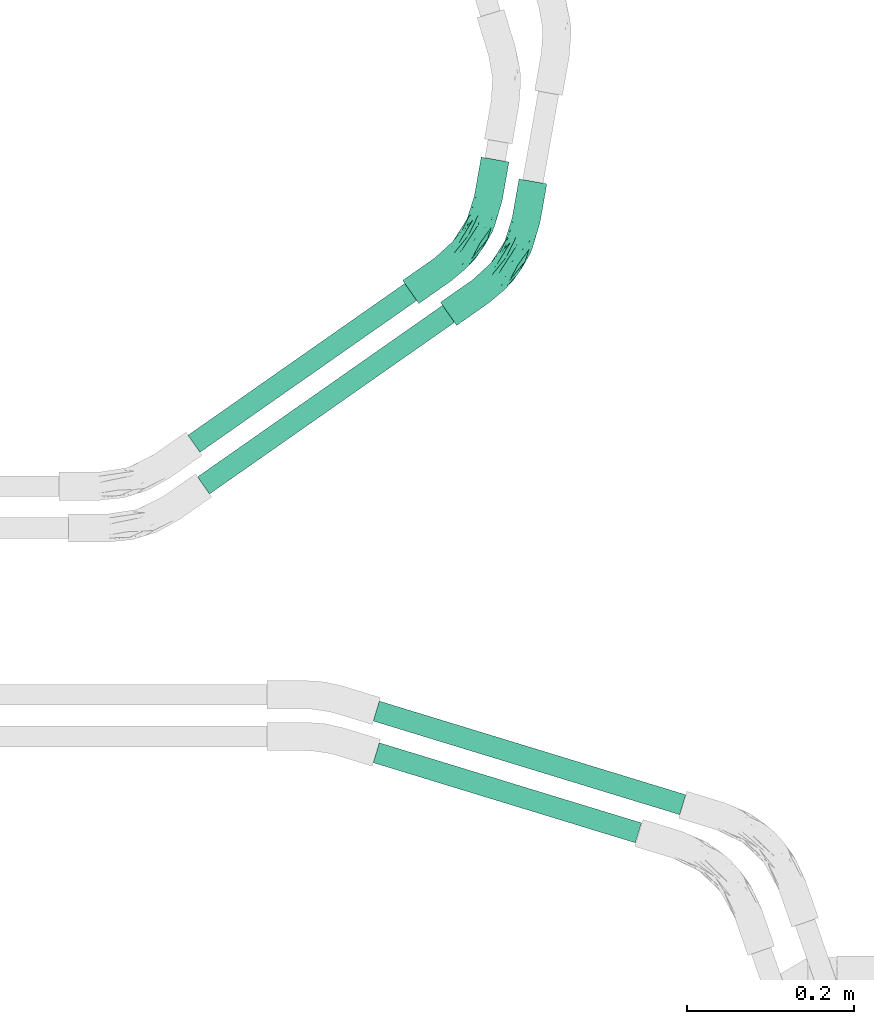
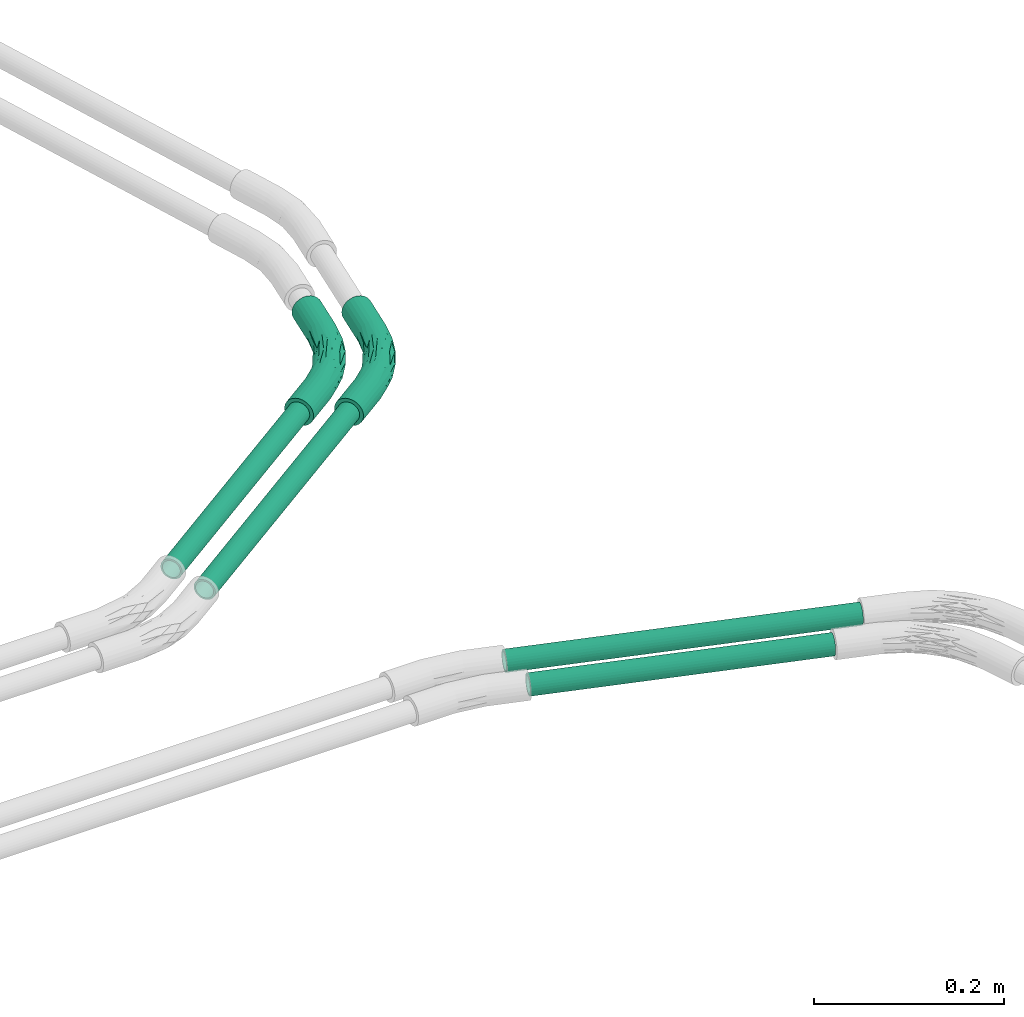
# One storey, part 14 of 22: 4 flow segments, 2 flow fittings.
"""IFC2X3 building model written with IfcOpenShell, lengths in millimetres."""

from ifc_helpers import new_model, entity, si_unit, converted_unit, derived_unit, direction, frame, origin_with_axes, origin_2d_with_axis, place, context, subcontext, project, spatial, hollow_circle, extrude, open_shell, surface_model, source, transform, mapped, type_object, element, save


model = new_model("IFC2X3")

# Units and contexts
model_context = context("Model", 3, precision=0.01, world=frame((0.0, 4.29681676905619e-09, 0.0)), true_north=direction((4.01073788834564e-13, 1.0)))
plan_context = context("Plan", 3, precision=0.01, world=frame((0.0, 4.29681676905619e-09, 0.0)), true_north=direction((4.01073788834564e-13, 1.0)))
body_context = subcontext(model_context, "Body", "Model", "MODEL_VIEW")
ifc_project = project(units=[converted_unit("PLANEANGLEUNIT", "DEGREE", entity("IfcPositiveLengthMeasure", 0.0174532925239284), si_unit("PLANEANGLEUNIT", "RADIAN"), dimensions=[0, 0, 0, 0, 0, 0, 0]), si_unit("AREAUNIT", "SQUARE_METRE"), si_unit("LENGTHUNIT", "METRE", prefix="MILLI"), si_unit("MASSUNIT", "GRAM", prefix="KILO"), si_unit("POWERUNIT", "WATT"), si_unit("PRESSUREUNIT", "PASCAL", prefix="KILO"), si_unit("FORCEUNIT", "NEWTON", prefix="KILO"), si_unit("ELECTRICVOLTAGEUNIT", "VOLT"), si_unit("ELECTRICCURRENTUNIT", "AMPERE"), si_unit("THERMODYNAMICTEMPERATUREUNIT", "DEGREE_CELSIUS"), si_unit("TIMEUNIT", "SECOND"), si_unit("VOLUMEUNIT", "CUBIC_METRE"), derived_unit("LINEARVELOCITYUNIT", [(si_unit("LENGTHUNIT", "METRE"), 1), (si_unit("TIMEUNIT", "SECOND"), -1)]), derived_unit("VOLUMETRICFLOWRATEUNIT", [(si_unit("VOLUMEUNIT", "CUBIC_METRE"), 1), (si_unit("TIMEUNIT", "SECOND"), -1)]), derived_unit("THERMALTRANSMITTANCEUNIT", [(si_unit("POWERUNIT", "WATT"), 1), (si_unit("THERMODYNAMICTEMPERATUREUNIT", "KELVIN"), -1), (si_unit("AREAUNIT", "SQUARE_METRE"), -1)]), derived_unit("SOUNDPRESSUREUNIT", [(si_unit("PRESSUREUNIT", "PASCAL"), 1)])], contexts=[model_context, plan_context])

# Site, building, storey
site_placement = place(None, frame((0.0, -4.29681676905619e-09, 0.0), z_axis=(0.0, 0.0, 1.0), x_axis=(1.0, 0.0, 0.0)))
site = spatial("IfcSite", under=ifc_project, at=site_placement, Name="ENGM", CompositionType="ELEMENT")
building_placement = place(site_placement, frame((0.0, 4.29681676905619e-09, 0.0), z_axis=(0.0, 0.0, 1.0), x_axis=(1.0, 0.0, 0.0)))
building = spatial("IfcBuilding", under=site, at=building_placement, Name="TI", CompositionType="ELEMENT")
storey_placement = place(building_placement, frame((0.0, 0.0, 210900.0), z_axis=(0.0, 0.0, 1.0), x_axis=(1.0, 0.0, 0.0)))
storey = spatial("IfcBuildingStorey", under=building, at=storey_placement, Name="Nivå F", CompositionType="ELEMENT", Elevation=210900.0)

# Flow fittings
cable_carrier_fitting_type = type_object("IfcCableCarrierFittingType", Name="Trekkerør, glatt bend", PredefinedType="BEND")
shared_shape_1 = source(origin_with_axes(), body_context, "Body", "SurfaceModel", [
    surface_model("IfcShellBasedSurfaceModel", [(-101.90646, 8.46055, -14.6541), (-101.90646, 4.3795, -16.34452), (-101.90646, 0.0, -16.92109), (-101.90646, -4.3795, -16.34452), (-101.90646, -8.46055, -14.6541), (-101.90646, -14.6541, -8.46055), (-101.90646, 16.92109, 0.0), (-101.90646, -11.96502, -11.96502), (-101.90646, -11.96502, 11.96502), (-101.90646, 14.6541, -8.46055), (-101.90646, 11.96502, -11.96502), (-101.90646, 16.34452, -4.3795), (-101.90646, -16.34452, -4.3795), (-101.90646, -16.92109, 0.0), (-101.90646, -16.34452, 4.3795), (-101.90646, -14.6541, 8.46055), (-101.90646, 0.0, 16.92109), (-101.90646, -8.46055, 14.6541), (-101.90646, -4.3795, 16.34452), (-101.90646, 14.6541, 8.46055), (-101.90646, 8.46055, 14.6541), (-101.90646, 11.96502, 11.96502), (-101.90646, 16.34452, 4.3795), (-101.90646, 4.3795, 16.34452), (-54.58849, 16.34452, 4.3795), (-54.58849, 16.92109, 0.0), (-54.58849, 14.6541, 8.46055), (-54.58849, 8.46055, 14.6541), (-54.58849, 11.96502, 11.96502), (-54.58849, 4.3795, 16.34452), (-54.58849, 0.0, 16.92109), (-54.58849, -8.46055, 14.6541), (-54.58849, -4.3795, 16.34452), (-54.58849, -11.96502, 11.96502), (-54.58849, -16.34452, 4.3795), (-54.58849, -14.6541, 8.46055), (-54.58849, -16.92109, 0.0), (-54.58849, -16.34452, -4.3795), (-54.58849, -14.6541, -8.46055), (-54.58849, -8.46055, -14.6541), (-54.58849, -11.96502, -11.96502), (-54.58849, -4.3795, -16.34452), (-54.58849, 0.0, -16.92109), (-54.58849, 8.46055, -14.6541), (-54.58849, 4.3795, -16.34452), (-54.58849, 11.96502, -11.96502), (-54.58849, 16.34452, -4.3795), (-54.58849, 14.6541, -8.46055), (-16.09967, 11.85394, 0.0), (-13.36235, 10.76027, 3.27049), (10.9245, 1.31078, 3.47544), (22.26214, -21.90343, 16.76352), (38.59989, -38.59989, 16.92109), (41.69667, -35.50312, 16.34452), (-19.66365, 2.12805, 15.57779), (-29.58477, 8.16493, 13.36262), (-20.60685, 9.47816, 10.19127), (-29.40446, -19.36118, 3.4046), (-10.25807, -24.76518, 5.65746), (-34.07223, -17.39409, 6.62821), (-31.22977, 0.25365, 16.76352), (-3.22837, -7.79397, 16.74683), (17.47707, -29.1678, 15.66764), (32.61738, -44.5824, 14.6541), (35.50312, -41.69667, 16.34452), (5.09993, -25.84703, 13.50914), (-25.92736, -13.63005, 13.4985), (-16.62388, -19.5721, 10.43045), (-21.17216, -6.44783, 16.79403), (19.76619, -3.00218, 0.0), (-6.56017, -15.83764, 15.71089), (-32.9829, -8.26659, 15.66764), (47.06044, -30.13935, 11.96502), (48.96191, -28.23788, 8.46055), (19.50033, -6.79523, 10.18462), (-0.14544, -0.35113, 13.28643), (-24.85868, -20.8351, 0.0), (26.69306, -15.14611, 13.36262), (44.5824, -32.61738, 14.6541), (8.93562, -35.31889, 4.60583), (8.9424, -34.00903, 7.47137), (-6.07752, 7.50254, 6.29064), (25.73601, -8.11548, 6.36012), (30.13935, -47.06044, 11.96502), (10.0687, -32.56851, 10.38353), (28.23788, -48.96191, 8.46055), (-30.89964, 14.04008, 5.64535), (16.01237, -12.75836, 15.5789), (12.05401, -20.50658, 16.79305), (50.15722, -27.04257, 4.3795), (32.88314, -11.79305, 2.69799), (50.56491, -26.63487, 0.0), (2.8451, -32.31038, 0.0), (26.63487, -50.56491, 0.0), (27.04257, -50.15722, 4.3795), (-32.9829, -8.26659, -15.66764), (41.69667, -35.50312, -16.34452), (38.59989, -38.59989, -16.92109), (16.55602, -18.09298, -16.75967), (8.69552, -27.97131, -13.4985), (32.61738, -44.5824, -14.6541), (30.13935, -47.06044, -11.96502), (-21.88281, -14.67041, -13.50914), (-6.56017, -15.83764, -15.71089), (-31.29267, -18.65579, -4.60583), (-30.37125, -17.72478, -7.47137), (-10.25807, -24.76517, -5.65746), (-19.1381, 5.92521, -13.33619), (17.63726, -9.2923, -13.33594), (-1.59965, -3.86188, -15.54749), (-30.14906, -15.90977, -10.38353), (-2.08471, -25.59442, -10.43045), (10.41167, -19.53028, -16.79403), (-24.73941, -5.56629, -16.79215), (-28.92763, 11.20296, -10.21852), (-18.36618, 11.17146, -6.33871), (-19.67101, -2.27248, -16.75686), (-22.81878, 13.17372, -3.2081), (17.47707, -29.1678, -15.66764), (-30.36783, 4.42984, -15.59506), (24.60567, -18.34093, -15.59506), (35.50312, -41.69667, -16.34452), (7.10167, -34.48251, -3.4046), (27.04257, -50.15722, -4.3795), (47.06044, -30.13935, -11.96502), (44.5824, -32.61738, -14.6541), (28.23788, -48.96191, -8.46055), (11.79322, -36.39219, -6.62821), (1.03493, 2.49855, -10.11808), (28.37661, -12.53324, -10.21852), (48.96191, -28.23788, -8.46055), (20.88626, -5.08744, -6.33871), (25.45054, -6.82009, -3.2081), (2.19574, 5.30098, -3.30061), (50.15722, -27.04257, -4.3795), (68.96197, -75.15552, -16.34452), (72.05875, -72.05875, -16.92109), (60.50143, -83.61607, -4.3795), (66.07624, -78.04126, -14.6541), (61.69674, -82.42076, -8.46055), (63.5982, -80.51929, -11.96502), (75.15552, -68.96197, -16.34452), (78.04126, -66.07624, -14.6541), (80.51929, -63.5982, -11.96502), (83.61607, -60.50143, -4.3795), (82.42076, -61.69674, -8.46055), (84.02377, -60.09373, 0.0), (83.61607, -60.50143, 4.3795), (75.15552, -68.96197, 16.34452), (61.69674, -82.42076, 8.46055), (60.50143, -83.61607, 4.3795), (66.07624, -78.04126, 14.6541), (72.05875, -72.05875, 16.92109), (63.5982, -80.51929, 11.96502), (68.96197, -75.15552, 16.34452), (82.42076, -61.69674, 8.46055), (80.51929, -63.5982, 11.96502), (78.04126, -66.07624, 14.6541), (60.09373, -84.02377, 0.0)], [open_shell([[[0, 1, 2]], [[2, 3, 4]], [[2, 4, 5]], [[2, 5, 6]], [[5, 4, 7]], [[8, 6, 5]], [[0, 9, 10]], [[0, 11, 9]], [[0, 2, 11]], [[6, 11, 2]], [[5, 12, 8]], [[13, 14, 15]], [[13, 15, 8]], [[16, 6, 17]], [[6, 8, 17]], [[16, 17, 18]], [[19, 20, 21]], [[19, 22, 6]], [[20, 16, 23]], [[20, 19, 6]], [[20, 6, 16]], [[12, 13, 8]], [[24, 25, 22]], [[24, 19, 26]], [[27, 28, 20]], [[21, 28, 26]], [[29, 27, 23]], [[6, 22, 25]], [[22, 19, 24]], [[19, 21, 26]], [[21, 20, 28]], [[27, 20, 23]], [[23, 16, 29]], [[16, 30, 29]], [[31, 32, 17]], [[31, 8, 33]], [[34, 35, 14]], [[15, 35, 33]], [[36, 34, 13]], [[30, 18, 32]], [[18, 17, 32]], [[16, 18, 30]], [[17, 8, 31]], [[8, 15, 33]], [[35, 15, 14]], [[14, 13, 34]], [[37, 36, 12]], [[37, 5, 38]], [[39, 40, 4]], [[7, 40, 38]], [[41, 39, 3]], [[13, 12, 36]], [[12, 5, 37]], [[5, 7, 38]], [[7, 4, 40]], [[39, 4, 3]], [[3, 2, 41]], [[2, 42, 41]], [[43, 44, 0]], [[43, 10, 45]], [[46, 47, 11]], [[9, 47, 45]], [[25, 46, 6]], [[42, 1, 44]], [[1, 0, 44]], [[2, 1, 42]], [[0, 10, 43]], [[10, 9, 45]], [[47, 9, 11]], [[11, 6, 46]], [[48, 49, 50]], [[48, 25, 49]], [[51, 52, 53]], [[54, 27, 29]], [[27, 55, 28]], [[26, 28, 56]], [[57, 58, 59]], [[54, 60, 61]], [[29, 30, 60]], [[62, 63, 64]], [[65, 66, 67]], [[68, 30, 32]], [[69, 48, 50]], [[70, 66, 65]], [[66, 31, 33]], [[59, 58, 67]], [[32, 31, 71]], [[72, 73, 74]], [[75, 74, 56]], [[36, 76, 57]], [[77, 78, 72]], [[57, 34, 36]], [[79, 80, 58]], [[81, 74, 82]], [[68, 71, 70]], [[83, 84, 85]], [[86, 49, 24]], [[67, 33, 35]], [[53, 78, 87]], [[61, 87, 54]], [[81, 56, 74]], [[68, 70, 88]], [[73, 82, 74]], [[89, 82, 73]], [[62, 64, 88]], [[72, 74, 77]], [[68, 88, 61]], [[90, 89, 91]], [[81, 82, 50]], [[75, 56, 55]], [[83, 65, 84]], [[76, 92, 57]], [[56, 86, 26]], [[93, 79, 92]], [[87, 77, 75]], [[94, 80, 79]], [[51, 53, 87]], [[65, 62, 70]], [[30, 68, 60]], [[80, 84, 67]], [[88, 51, 61]], [[83, 63, 65]], [[64, 52, 88]], [[66, 33, 67]], [[54, 87, 75]], [[50, 82, 90]], [[71, 31, 66]], [[27, 54, 55]], [[85, 84, 80]], [[67, 84, 65]], [[28, 55, 56]], [[75, 55, 54]], [[78, 77, 87]], [[75, 77, 74]], [[85, 80, 94]], [[58, 80, 67]], [[94, 79, 93]], [[79, 58, 92]], [[29, 60, 54]], [[61, 60, 68]], [[52, 51, 88]], [[61, 51, 87]], [[49, 81, 50]], [[69, 50, 90]], [[69, 90, 91]], [[89, 90, 82]], [[81, 49, 86]], [[24, 49, 25]], [[81, 86, 56]], [[86, 24, 26]], [[32, 71, 68]], [[70, 71, 66]], [[63, 62, 65]], [[70, 62, 88]], [[35, 34, 59]], [[58, 57, 92]], [[57, 59, 34]], [[35, 59, 67]], [[41, 95, 39]], [[96, 97, 98]], [[99, 100, 101]], [[102, 95, 103]], [[36, 104, 76]], [[37, 105, 104]], [[105, 106, 104]], [[107, 108, 109]], [[110, 111, 105]], [[102, 40, 39]], [[99, 101, 111]], [[112, 103, 113]], [[114, 47, 115]], [[98, 112, 116]], [[117, 46, 25]], [[102, 99, 111]], [[47, 46, 115]], [[118, 100, 99]], [[44, 43, 119]], [[95, 41, 113]], [[114, 45, 47]], [[107, 43, 45]], [[116, 119, 109]], [[113, 116, 112]], [[120, 96, 98]], [[97, 121, 112]], [[92, 76, 122]], [[42, 116, 113]], [[122, 123, 93]], [[108, 124, 125]], [[116, 42, 44]], [[101, 126, 111]], [[99, 102, 103]], [[127, 122, 106]], [[118, 121, 100]], [[107, 114, 128]], [[119, 43, 107]], [[106, 111, 127]], [[108, 107, 128]], [[118, 103, 112]], [[125, 96, 120]], [[98, 97, 112]], [[124, 129, 130]], [[108, 120, 109]], [[113, 41, 42]], [[98, 116, 109]], [[131, 129, 128]], [[115, 131, 128]], [[91, 132, 69]], [[132, 133, 69]], [[133, 117, 48]], [[115, 117, 133]], [[48, 69, 133]], [[131, 134, 130]], [[124, 108, 129]], [[93, 92, 122]], [[40, 102, 110]], [[40, 110, 38]], [[38, 110, 105]], [[111, 110, 102]], [[45, 114, 107]], [[128, 114, 115]], [[130, 129, 131]], [[128, 129, 108]], [[38, 105, 37]], [[106, 105, 111]], [[37, 104, 36]], [[104, 106, 76]], [[44, 119, 116]], [[109, 119, 107]], [[125, 120, 108]], [[109, 120, 98]], [[133, 131, 115]], [[131, 133, 132]], [[39, 95, 102]], [[103, 95, 113]], [[121, 118, 112]], [[103, 118, 99]], [[48, 117, 25]], [[117, 115, 46]], [[132, 134, 131]], [[134, 132, 91]], [[126, 123, 127]], [[106, 122, 76]], [[122, 127, 123]], [[126, 127, 111]], [[135, 136, 137]], [[138, 135, 137]], [[137, 139, 140]], [[138, 137, 140]], [[141, 137, 136]], [[142, 143, 141]], [[144, 141, 143]], [[145, 144, 143]], [[144, 137, 141]], [[146, 147, 144]], [[148, 137, 144]], [[149, 150, 137]], [[137, 151, 149]], [[137, 152, 151]], [[153, 149, 151]], [[152, 154, 151]], [[155, 156, 147]], [[157, 147, 156]], [[157, 148, 147]], [[148, 144, 147]], [[137, 148, 152]], [[158, 137, 150]], [[147, 146, 89]], [[147, 73, 155]], [[157, 156, 78]], [[72, 156, 155]], [[148, 157, 53]], [[91, 89, 146]], [[89, 73, 147]], [[73, 72, 155]], [[72, 78, 156]], [[157, 78, 53]], [[53, 52, 148]], [[52, 152, 148]], [[151, 154, 63]], [[151, 83, 153]], [[150, 149, 94]], [[85, 149, 153]], [[158, 150, 93]], [[152, 64, 154]], [[64, 63, 154]], [[52, 64, 152]], [[63, 83, 151]], [[83, 85, 153]], [[149, 85, 94]], [[94, 93, 150]], [[137, 158, 93]], [[137, 123, 139]], [[121, 135, 138]], [[101, 138, 140]], [[140, 139, 126]], [[123, 126, 139]], [[137, 93, 123]], [[100, 138, 101]], [[121, 138, 100]], [[121, 97, 135]], [[140, 126, 101]], [[97, 136, 135]], [[142, 141, 125]], [[142, 124, 143]], [[144, 145, 134]], [[130, 145, 143]], [[146, 144, 91]], [[136, 96, 141]], [[96, 125, 141]], [[97, 96, 136]], [[125, 124, 142]], [[124, 130, 143]], [[145, 130, 134]], [[134, 91, 144]]])]),
])
for number, where, z_axis, x_axis, name in (
    (1, (600928.19467, 571609.83335, -56.7999999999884), (0.0, 0.0, 1.0), (-0.173647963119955, -0.984807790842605, 0.0), "Trekkerør, glatt bend"),
    (2, (600882.82273, 571636.08034, -56.7999999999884), (0.0, 0.0, 1.0), (-0.173647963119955, -0.984807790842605, 0.0), "Trekkerør, glatt bend"),
):
    element("IfcFlowFitting", number, at=place(storey_placement, frame(where, z_axis=z_axis, x_axis=x_axis)), inside=storey, type_object=cable_carrier_fitting_type, Name=name, context=body_context, shape_type="MappedRepresentation", body=[
        mapped(shared_shape_1, transform((0.0, 0.0, 0.0), scale=1.0)),
    ])

# Flow segments
cable_carrier_segment_type = type_object("IfcCableCarrierSegmentType", Name="Trekkerør, korrugert", PredefinedType="CONDUITSEGMENT")
shared_shape_2 = source(origin_with_axes(), body_context, "Body", "SweptSolid", [
    extrude(hollow_circle(Radius=12.5, WallThickness=2.0, at=origin_2d_with_axis()), frame((0.0, 0.0, 0.0), z_axis=(1.0, 0.0, 0.0), x_axis=(0.0, 1.0, 0.0)), (0.0, 0.0, 1.0), 328.8),
])
flow_segment_1_placement = place(storey_placement, frame((600758.05663, 571025.03123, -56.7999999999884), z_axis=(0.0, 0.0, 1.0), x_axis=(0.956304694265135, -0.292371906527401, 0.0)))
element("IfcFlowSegment", 3, at=flow_segment_1_placement, inside=storey, type_object=cable_carrier_segment_type, Name="Trekkerør, korrugert", context=body_context, shape_type="MappedRepresentation", body=[
    mapped(shared_shape_2, transform((0.0, 0.0, 0.0), scale=1.0)),
])
shared_shape_3 = source(origin_with_axes(), body_context, "Body", "SweptSolid", [
    extrude(hollow_circle(Radius=12.5, WallThickness=2.0, at=origin_2d_with_axis()), frame((0.0, 0.0, 0.0), z_axis=(1.0, 0.0, 0.0), x_axis=(0.0, 1.0, 0.0)), (0.0, 0.0, 1.0), 384.3),
])
flow_segment_2_placement = place(storey_placement, frame((600758.05663, 571075.03123, -56.7999999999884), z_axis=(0.0, 0.0, 1.0), x_axis=(0.956304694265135, -0.292371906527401, 0.0)))
element("IfcFlowSegment", 4, at=flow_segment_2_placement, inside=storey, type_object=cable_carrier_segment_type, Name="Trekkerør, korrugert", context=body_context, shape_type="MappedRepresentation", body=[
    mapped(shared_shape_3, transform((0.0, 0.0, 0.0), scale=1.0)),
])
shared_shape_4 = source(origin_with_axes(), body_context, "Body", "SweptSolid", [
    extrude(hollow_circle(Radius=12.5, WallThickness=2.0, at=origin_2d_with_axis()), frame((0.0, 0.0, 0.0), z_axis=(1.0, 0.0, 0.0), x_axis=(0.0, 1.0, 0.0)), (0.0, 0.0, 1.0), 358.8),
])
flow_segment_3_placement = place(storey_placement, frame((600550.82791, 571345.5983, -56.7999999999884), z_axis=(0.0, 0.0, 1.0), x_axis=(0.819152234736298, 0.573576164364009, 0.0)))
element("IfcFlowSegment", 5, at=flow_segment_3_placement, inside=storey, type_object=cable_carrier_segment_type, Name="Trekkerør, korrugert", context=body_context, shape_type="MappedRepresentation", body=[
    mapped(shared_shape_4, transform((0.0, 0.0, 0.0), scale=1.0)),
])
shared_shape_5 = source(origin_with_axes(), body_context, "Body", "SweptSolid", [
    extrude(hollow_circle(Radius=12.5, WallThickness=2.0, at=origin_2d_with_axis()), frame((0.0, 0.0, 0.0), z_axis=(1.0, 0.0, 0.0), x_axis=(0.0, 1.0, 0.0)), (0.0, 0.0, 1.0), 317.4),
])
flow_segment_4_placement = place(storey_placement, frame((600539.37878, 571395.5983, -56.7999999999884), z_axis=(0.0, 0.0, 1.0), x_axis=(0.819152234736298, 0.573576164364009, 0.0)))
element("IfcFlowSegment", 6, at=flow_segment_4_placement, inside=storey, type_object=cable_carrier_segment_type, Name="Trekkerør, korrugert", context=body_context, shape_type="MappedRepresentation", body=[
    mapped(shared_shape_5, transform((0.0, 0.0, 0.0), scale=1.0)),
])

save(model, "model.ifc")
